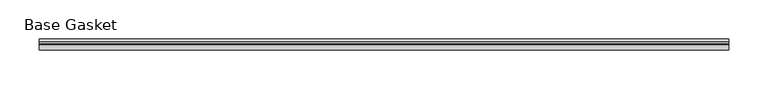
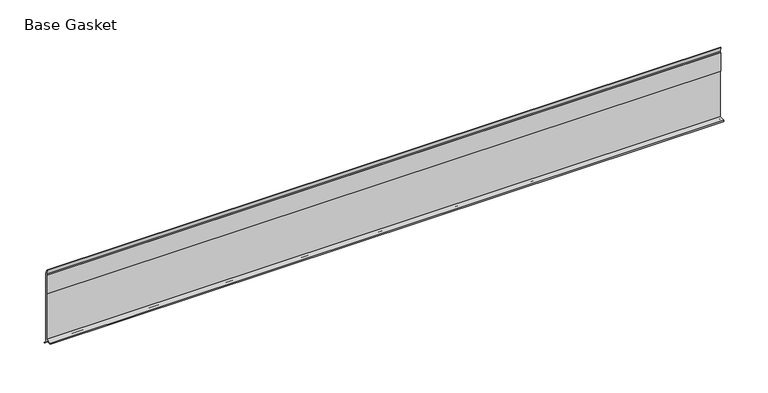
"""IFC4 building model written with IfcOpenShell, lengths in millimetres: furniture geometry, Gasket-Teknion-FHGB-AI_Healthcare-R2021 : Base Gasket."""

from ifc_helpers import new_model, si_unit, frame, origin, place, context, project, spatial, polyline, outline, extrude, source, transform, mapped, element, save


def base_gasket_614c1a42(model_context):
    return source(origin(), model_context, "Body", "SweptSolid", [
        extrude(outline(polyline([(3.7283812, 98.4568417), (3.7283812, 4.3498477), (7.4222115, 0.6560174), (7.8482342, 0.0), (6.8281054, 0.3520979), (2.2043812, 4.3498477), (2.1334222, 6.3818476), (-6.2405171, 6.3818476), (-6.2405171, 7.9398773), (2.2043812, 7.9398773), (2.2043812, 71.4693447), (1.4106313, 71.4693447), (1.4106313, 96.8693477), (2.2043812, 96.8693477), (2.2043812, 98.4568417), (0.6755308, 104.4162708), (0.6755308, 105.2002997), (1.1891543, 104.587663), (3.7283812, 98.4568417)])), frame((-1527.8982117, 0.0, 0.0), z_axis=(1.0, 0.0, 0.0), x_axis=(0.0, 1.0, 0.0)), (0.0, 0.0, 1.0), 882.7691795),
    ])


if __name__ == "__main__":
    model = new_model("IFC4")
    model_context = context("Model", 3, world=origin())
    ifc_project = project(units=[si_unit("LENGTHUNIT", "METRE", prefix="MILLI")], contexts=[model_context])
    site = spatial("IfcSite", under=ifc_project)
    building = spatial("IfcBuilding", under=site)
    placement = place(None, origin())
    base_gasket_shape = base_gasket_614c1a42(model_context)
    element("IfcFurniture", 1, ObjectType="Gasket-Teknion-FHGB-AI_Healthcare-R2021 : Base Gasket", at=placement, inside=building, context=model_context, shape_type="MappedRepresentation", body=[
        mapped(base_gasket_shape, transform((0.0, 0.0, 0.0), x_axis=(1.0, 0.0, 0.0), y_axis=(0.0, 1.0, 0.0), z_axis=(0.0, 0.0, 1.0))),
    ])
    save(model, "model.ifc")
